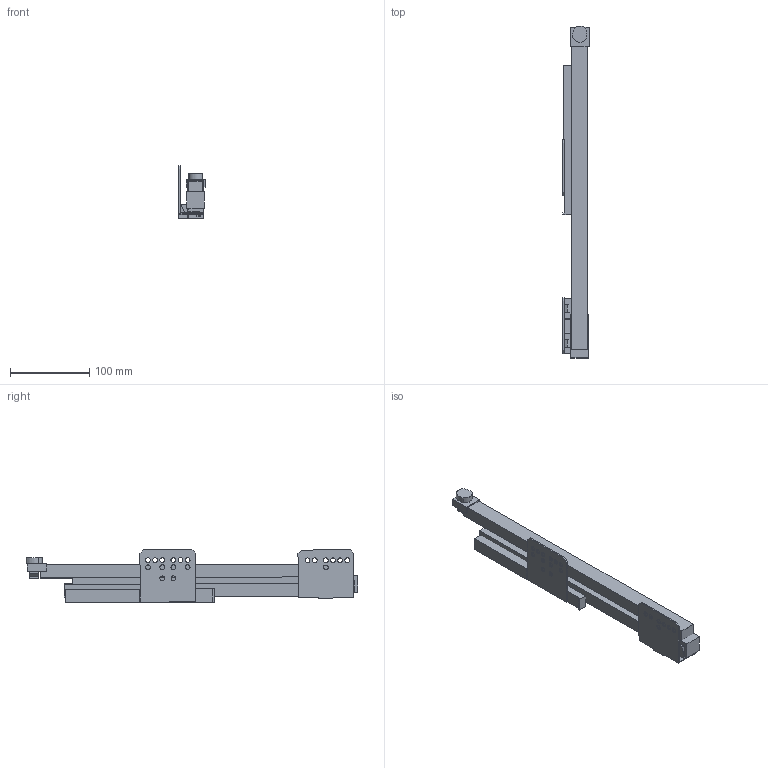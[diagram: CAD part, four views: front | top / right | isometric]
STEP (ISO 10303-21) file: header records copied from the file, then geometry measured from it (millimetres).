
FILE_DESCRIPTION (( 'STEP AP214' ), '1' );
FILE_NAME ('_IMOS Dynamic-XP VA 40kg NL400 LI Tipmatic.step', '2010-07-08T13:26:04', ( 'grass' ), ( '' ), 'SwSTEP 2.0', 'SolidWorks 2010', '' );
FILE_SCHEMA (( 'AUTOMOTIVE_DESIGN' ));
Length unit declared in the file: millimetre
Products named in the file (1): _IMOS Dynamic-XP VA 40kg NL400 LI Tipmatic
Bounding box: 33.14 x 418.02 x 66.67 mm (x, y, z)
Volume: 383497.6 mm3; surface area: 138971.8 mm2
Topology: 8 solids, 8 shells, 184 faces, 496 edges, 330 vertices
Faces by surface type: plane 137, cylinder 47
Entity records: 5917 total; most frequent: CARTESIAN_POINT 1011, ORIENTED_EDGE 992, DIRECTION 962, EDGE_CURVE 496, VECTOR 400, LINE 400, VERTEX_POINT 330, AXIS2_PLACEMENT_3D 281
